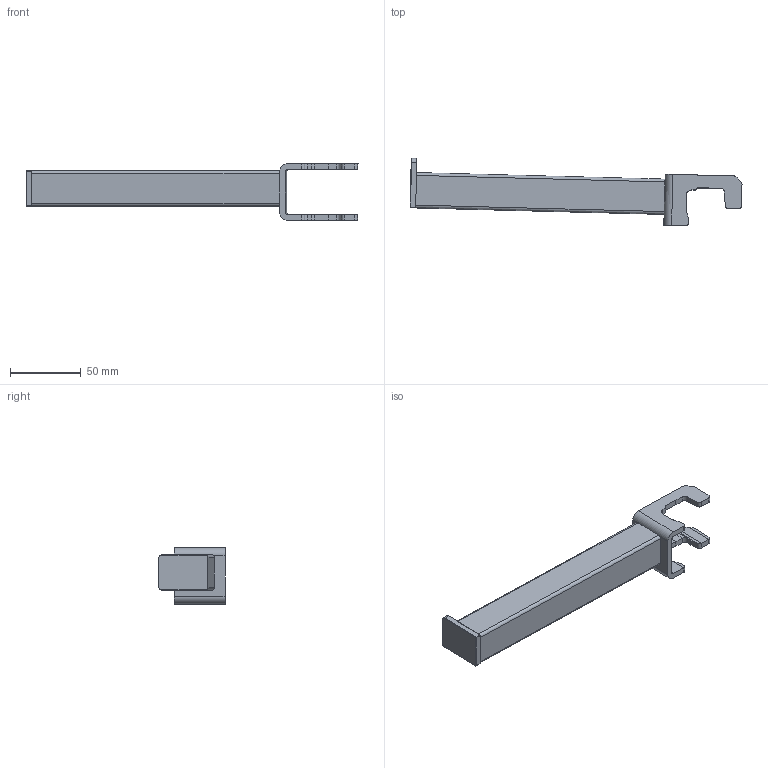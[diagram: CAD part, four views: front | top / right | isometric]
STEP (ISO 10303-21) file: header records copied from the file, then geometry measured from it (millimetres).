
FILE_DESCRIPTION (( 'STEP AP214' ), '1' );
FILE_NAME ('704256.STEP', '2025-10-01T09:35:07', ( '' ), ( '' ), 'SwSTEP 2.0', 'SolidWorks 2025', '' );
FILE_SCHEMA (( 'AUTOMOTIVE_DESIGN' ));
Length unit declared in the file: millimetre
Products named in the file (1): 704256
Bounding box: 235.09 x 47.6 x 40 mm (x, y, z)
Volume: 125831.2 mm3; surface area: 28466.4 mm2
Topology: 3 solids, 3 shells, 114 faces, 302 edges, 194 vertices
Faces by surface type: plane 68, cylinder 45, bspline 1
Entity records: 3593 total; most frequent: CARTESIAN_POINT 686, ORIENTED_EDGE 604, DIRECTION 598, EDGE_CURVE 302, LINE 206, VECTOR 206, AXIS2_PLACEMENT_3D 196, VERTEX_POINT 194
